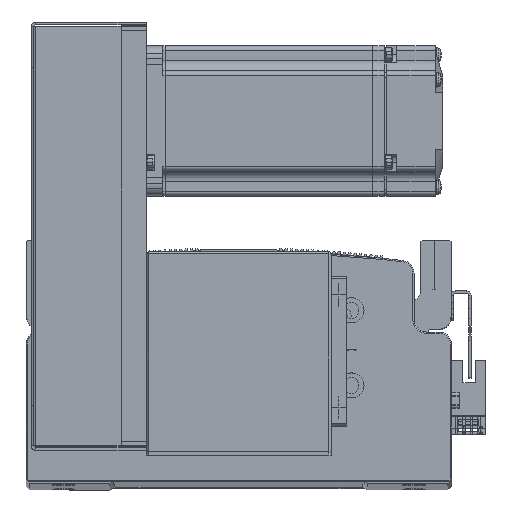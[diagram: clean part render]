
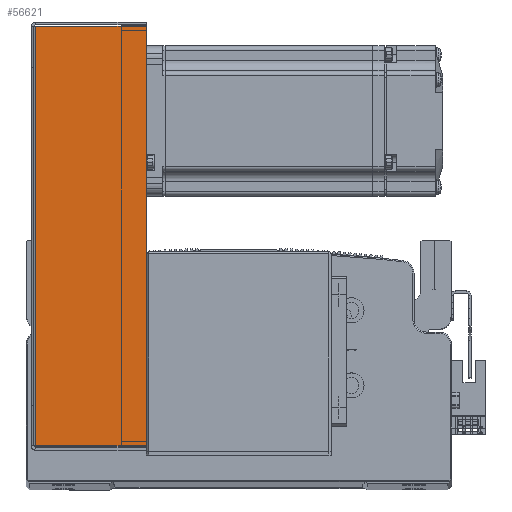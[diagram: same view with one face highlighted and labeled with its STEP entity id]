
A CAD part, top view. The second image highlights one B-rep face of the part: STEP entity #56621.
In plain terms, the highlighted planar face has unit normal (0, 0, 1) as drawn and (0, 0, -1) by its records, which use the part's own axes.
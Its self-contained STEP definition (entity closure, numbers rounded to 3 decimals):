
#678 = EDGE_LOOP ( 'NONE', ( #71153, #71166, #71162, #72757 ) ) ;
#5481 = EDGE_CURVE ( 'NONE', #9451, #9521, #78740, .T. ) ;
#5487 = EDGE_CURVE ( 'NONE', #9521, #9501, #78856, .T. ) ;
#5493 = EDGE_CURVE ( 'NONE', #9628, #9501, #78851, .T. ) ;
#5618 = EDGE_CURVE ( 'NONE', #9451, #9628, #78905, .T. ) ;
#9451 = VERTEX_POINT ( 'NONE', #73817 ) ;
#9501 = VERTEX_POINT ( 'NONE', #73891 ) ;
#9521 = VERTEX_POINT ( 'NONE', #73926 ) ;
#9628 = VERTEX_POINT ( 'NONE', #73946 ) ;
#19438 = FACE_OUTER_BOUND ( 'NONE', #678, .T. ) ;
#37502 = AXIS2_PLACEMENT_3D ( 'NONE', #38109, #38145, #38103 ) ;
#38102 = PLANE ( 'NONE',  #37502 ) ;
#38103 = DIRECTION ( 'NONE',  ( 0., -1., 0. ) ) ;
#38109 = CARTESIAN_POINT ( 'NONE',  ( 0., 0., -40.5 ) ) ;
#38145 = DIRECTION ( 'NONE',  ( 0., 0., 1. ) ) ;
#56621 = ADVANCED_FACE ( 'NONE', ( #19438 ), #38102, .F. ) ;
#71153 = ORIENTED_EDGE ( 'NONE', *, *, #5618, .F. ) ;
#71162 = ORIENTED_EDGE ( 'NONE', *, *, #5487, .T. ) ;
#71166 = ORIENTED_EDGE ( 'NONE', *, *, #5481, .T. ) ;
#72757 = ORIENTED_EDGE ( 'NONE', *, *, #5493, .F. ) ;
#73817 = CARTESIAN_POINT ( 'NONE',  ( -83.793, 0.737, -40.5 ) ) ;
#73891 = CARTESIAN_POINT ( 'NONE',  ( 83.793, 45., -40.5 ) ) ;
#73926 = CARTESIAN_POINT ( 'NONE',  ( -83.793, 45., -40.5 ) ) ;
#73946 = CARTESIAN_POINT ( 'NONE',  ( 83.793, 0.737, -40.5 ) ) ;
#77198 = DIRECTION ( 'NONE',  ( 1., 0., 0. ) ) ;
#77211 = CARTESIAN_POINT ( 'NONE',  ( 0., 0.737, -40.5 ) ) ;
#78740 = LINE ( 'NONE', #79939, #78752 ) ;
#78752 = VECTOR ( 'NONE', #79872, 1000. ) ;
#78786 = VECTOR ( 'NONE', #79903, 1000. ) ;
#78821 = VECTOR ( 'NONE', #80002, 1000. ) ;
#78851 = LINE ( 'NONE', #79958, #78821 ) ;
#78856 = LINE ( 'NONE', #79960, #78786 ) ;
#78905 = LINE ( 'NONE', #77211, #78924 ) ;
#78924 = VECTOR ( 'NONE', #77198, 1000. ) ;
#79872 = DIRECTION ( 'NONE',  ( 0., 1., 0. ) ) ;
#79903 = DIRECTION ( 'NONE',  ( 1., 0., 0. ) ) ;
#79939 = CARTESIAN_POINT ( 'NONE',  ( -83.793, 0., -40.5 ) ) ;
#79958 = CARTESIAN_POINT ( 'NONE',  ( 83.793, 0., -40.5 ) ) ;
#79960 = CARTESIAN_POINT ( 'NONE',  ( 84.5, 45., -40.5 ) ) ;
#80002 = DIRECTION ( 'NONE',  ( 0., 1., 0. ) ) ;
